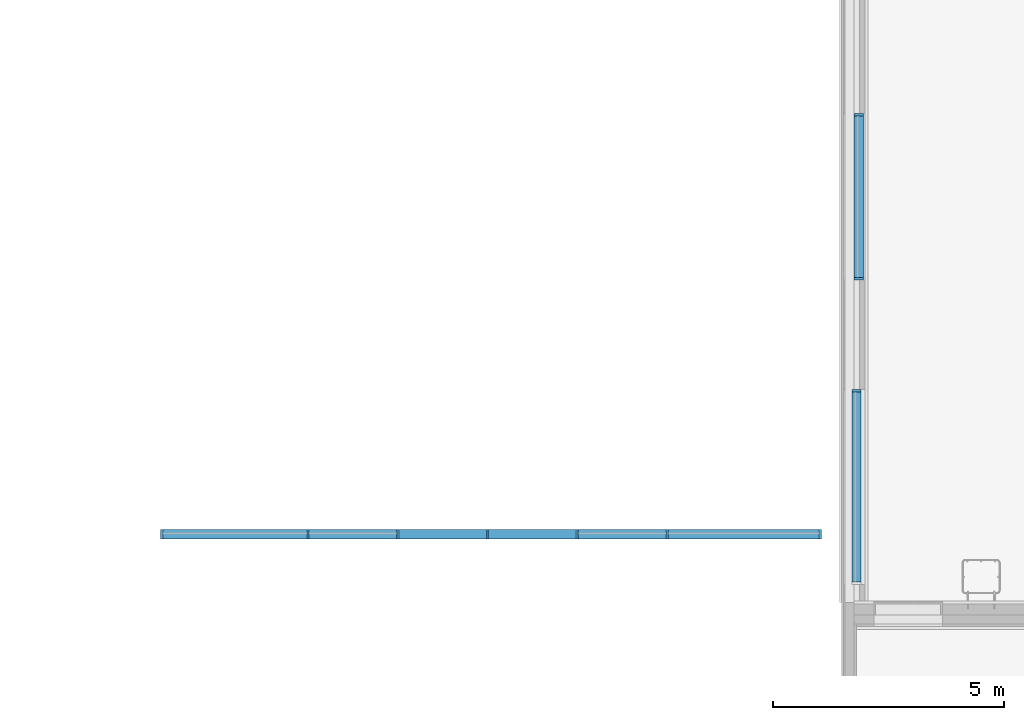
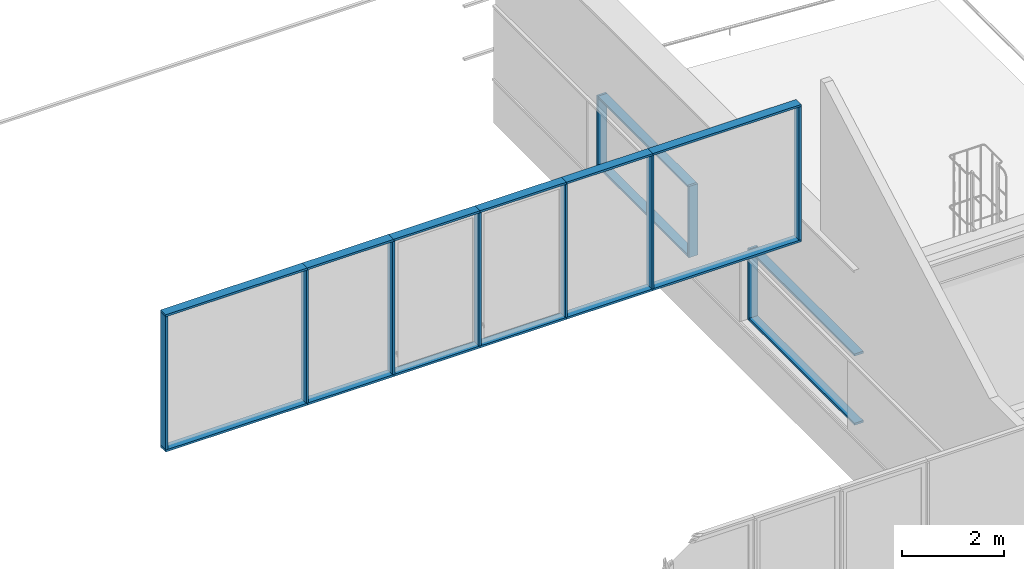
# One storey, part 11 of 44: 26 members, 3 elements without a shape of their own.
"""IFC2X3 building model written with IfcOpenShell, lengths in centimetres."""

from ifc_helpers import new_model, entity, si_unit, converted_unit, derived_unit, direction, frame, frame_2d, origin, origin_2d_with_axis, place, context, subcontext, project, spatial, rectangle, extrude, material, type_object, element, aggregate, save


model = new_model("IFC2X3")

# Units and contexts
model_context = context("Model", 3, precision=0.001, world=origin(), true_north=direction((6.12303176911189e-17, 1.0)))
body_context = subcontext(model_context, "Body", "Model", "MODEL_VIEW")
ifc_project = project(units=[si_unit("LENGTHUNIT", "METRE", prefix="CENTI"), si_unit("AREAUNIT", "SQUARE_METRE"), si_unit("VOLUMEUNIT", "CUBIC_METRE"), converted_unit("PLANEANGLEUNIT", "DEGREE", entity("IfcRatioMeasure", 0.0174532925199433), si_unit("PLANEANGLEUNIT", "RADIAN"), dimensions=[0, 0, 0, 0, 0, 0, 0]), si_unit("MASSUNIT", "GRAM", prefix="KILO"), si_unit("TIMEUNIT", "SECOND"), si_unit("FREQUENCYUNIT", "HERTZ"), si_unit("THERMODYNAMICTEMPERATUREUNIT", "DEGREE_CELSIUS"), derived_unit("THERMALTRANSMITTANCEUNIT", [(si_unit("MASSUNIT", "GRAM", prefix="KILO"), 1), (si_unit("THERMODYNAMICTEMPERATUREUNIT", "KELVIN"), -1), (si_unit("TIMEUNIT", "SECOND"), -3)]), derived_unit("VOLUMETRICFLOWRATEUNIT", [(si_unit("LENGTHUNIT", "METRE"), 3), (si_unit("TIMEUNIT", "SECOND"), -1)]), si_unit("ELECTRICCURRENTUNIT", "AMPERE"), si_unit("ELECTRICVOLTAGEUNIT", "VOLT"), si_unit("POWERUNIT", "WATT"), si_unit("FORCEUNIT", "NEWTON", prefix="KILO"), si_unit("ILLUMINANCEUNIT", "LUX"), si_unit("LUMINOUSFLUXUNIT", "LUMEN"), si_unit("LUMINOUSINTENSITYUNIT", "CANDELA"), derived_unit("USERDEFINED", [(si_unit("MASSUNIT", "GRAM", prefix="KILO"), -1), (si_unit("LENGTHUNIT", "METRE"), -2), (si_unit("TIMEUNIT", "SECOND"), 3), (si_unit("LUMINOUSFLUXUNIT", "LUMEN"), 1)]), derived_unit("LINEARVELOCITYUNIT", [(si_unit("LENGTHUNIT", "METRE"), 1), (si_unit("TIMEUNIT", "SECOND"), -1)]), si_unit("PRESSUREUNIT", "PASCAL"), derived_unit("USERDEFINED", [(si_unit("LENGTHUNIT", "METRE"), -2), (si_unit("MASSUNIT", "GRAM", prefix="KILO"), 1), (si_unit("TIMEUNIT", "SECOND"), -2)])], contexts=[model_context])

# Site, building, storey
site_placement = place(None, frame((8.62739174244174, -249.285249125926, 0.0)))
site = spatial("IfcSite", under=ifc_project, at=site_placement, Name="Default", CompositionType="ELEMENT")
building_placement = place(site_placement, origin())
building = spatial("IfcBuilding", under=site, at=building_placement, CompositionType="ELEMENT")
storey_placement = place(building_placement, frame((0.0, 0.0, 343.0)))
storey = spatial("IfcBuildingStorey", under=building, at=storey_placement, Name="R+1", CompositionType="ELEMENT", Elevation=343.0)

# Curtain wall, members
curtain_wall_type = type_object("IfcCurtainWallType", Name="Mur-rideau:Simple panneau", PredefinedType="NOTDEFINED")
curtain_wall_1_placement = place(storey_placement, frame((0.0, 0.0, -343.0)))
curtain_wall_1 = element("IfcCurtainWall", 1, at=curtain_wall_1_placement, inside=storey, type_object=curtain_wall_type, Name="Mur-rideau:Simple panneau", ObjectType="Mur-rideau:Simple panneau")
ifc_material = material(Name="Plastique, blanc opaque")
member_1_placement = place(curtain_wall_1_placement, frame((0.0, 0.0, 343.0)))
member_1 = element("IfcMember", 2, at=member_1_placement, material=ifc_material, Name="Mur-rideau:Simple panneau", ObjectType="Mur-rideau:Simple panneau", context=body_context, shape_type="SweptSolid", body=[
    extrude(rectangle(XDim=19.9999999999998, YDim=4.99999999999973, at=frame_2d((-2.16715534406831e-13, 4.32986979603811e-13), x_axis=(1.0, 0.0))), frame((3063.90482779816, 7198.28019843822, 278.0), z_axis=(0.0, 0.0, -1.0), x_axis=(-1.0, 0.0, 0.0)), (0.0, 0.0, 1.0), 170.0),
])
member_2_placement = place(curtain_wall_1_placement, frame((0.0, 0.0, 343.0)))
member_2 = element("IfcMember", 3, at=member_2_placement, material=ifc_material, Name="Mur-rideau:Simple panneau", ObjectType="Mur-rideau:Simple panneau", context=body_context, shape_type="SweptSolid", body=[
    extrude(rectangle(XDim=5.00000000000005, YDim=19.9999999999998, at=frame_2d((-5.41788836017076e-14, 4.33431068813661e-13), x_axis=(1.0, 0.0))), frame((3063.90482780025, 6845.7801984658, 275.499999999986), z_axis=(0.0, 1.0, 0.0), x_axis=(0.0, 0.0, -1.0)), (0.0, 0.0, 1.0), 349.999999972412),
])
member_3_placement = place(curtain_wall_1_placement, frame((0.0, 0.0, 343.0)))
member_3 = element("IfcMember", 4, at=member_3_placement, material=ifc_material, Name="Mur-rideau:Simple panneau", ObjectType="Mur-rideau:Simple panneau", context=body_context, shape_type="SweptSolid", body=[
    extrude(rectangle(XDim=19.9999999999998, YDim=4.99999999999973, at=frame_2d((-2.16715534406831e-13, -4.33209024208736e-13), x_axis=(1.0, 0.0))), frame((3063.90482780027, 6843.2801984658, 108.0), z_axis=(0.0, 0.0, 1.0), x_axis=(-1.0, 0.0, 0.0)), (0.0, 0.0, 1.0), 170.0),
])
member_4_placement = place(curtain_wall_1_placement, frame((0.0, 0.0, 343.0)))
member_4 = element("IfcMember", 5, at=member_4_placement, material=ifc_material, Name="Mur-rideau:Simple panneau", ObjectType="Mur-rideau:Simple panneau", context=body_context, shape_type="SweptSolid", body=[
    extrude(rectangle(XDim=5.0, YDim=19.9999999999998, at=frame_2d((2.70894418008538e-14, 4.33431068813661e-13), x_axis=(1.0, 0.0))), frame((3063.90482779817, 7195.78019843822, 110.5), z_axis=(0.0, -1.0, 0.0), x_axis=(0.0, 0.0, -1.0)), (0.0, 0.0, 1.0), 349.999999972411),
])
aggregate(curtain_wall_1, [member_1, member_2, member_3, member_4])

curtain_wall_2_placement = place(storey_placement, frame((0.0, 0.0, -343.0)))
curtain_wall_2 = element("IfcCurtainWall", 6, at=curtain_wall_2_placement, inside=storey, type_object=curtain_wall_type, Name="Mur-rideau:Simple panneau", ObjectType="Mur-rideau:Simple panneau")
member_5_placement = place(curtain_wall_2_placement, frame((0.0, 0.0, 343.0)))
member_5 = element("IfcMember", 7, at=member_5_placement, material=ifc_material, Name="Mur-rideau:Simple panneau", ObjectType="Mur-rideau:Simple panneau", context=body_context, shape_type="SweptSolid", body=[
    extrude(rectangle(XDim=19.9999999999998, YDim=4.99999999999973, at=frame_2d((2.16715534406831e-13, -4.32986979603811e-13), x_axis=(1.0, 0.0))), frame((3058.90482779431, 6600.48020813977, 278.0), z_axis=(0.0, 0.0, -1.0), x_axis=(-1.0, 0.0, 0.0)), (0.0, 0.0, 1.0), 170.0),
])
member_6_placement = place(curtain_wall_2_placement, frame((0.0, 0.0, 343.0)))
member_6 = element("IfcMember", 8, at=member_6_placement, material=ifc_material, Name="Mur-rideau:Simple panneau", ObjectType="Mur-rideau:Simple panneau", context=body_context, shape_type="SweptSolid", body=[
    extrude(rectangle(XDim=4.99999999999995, YDim=19.9999999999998, at=origin_2d_with_axis()), frame((3058.90482779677, 6185.7801984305, 275.499999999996), z_axis=(0.0, 1.0, 0.0), x_axis=(0.0, 0.0, -1.0)), (0.0, 0.0, 1.0), 412.200009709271),
])
member_7_placement = place(curtain_wall_2_placement, frame((0.0, 0.0, 343.0)))
member_7 = element("IfcMember", 9, at=member_7_placement, material=ifc_material, Name="Mur-rideau:Simple panneau", ObjectType="Mur-rideau:Simple panneau", context=body_context, shape_type="SweptSolid", body=[
    extrude(rectangle(XDim=5.0, YDim=19.9999999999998, at=frame_2d((-2.70894418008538e-14, 0.0), x_axis=(1.0, 0.0))), frame((3058.90482779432, 6597.98020813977, 110.499999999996), z_axis=(0.0, -1.0, 0.0), x_axis=(0.0, 0.0, -1.0)), (0.0, 0.0, 1.0), 412.200009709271),
])
aggregate(curtain_wall_2, [member_5, member_6, member_7])

curtain_wall_3_placement = place(storey_placement, frame((0.0, 0.0, -343.0)))
curtain_wall_3 = element("IfcCurtainWall", 10, at=curtain_wall_3_placement, inside=storey, type_object=curtain_wall_type, Name="Mur-rideau:Simple panneau", ObjectType="Mur-rideau:Simple panneau")
member_8_placement = place(curtain_wall_3_placement, frame((0.0, 0.0, 343.0)))
member_8 = element("IfcMember", 11, at=member_8_placement, material=ifc_material, Name="Mur-rideau:Simple panneau", ObjectType="Mur-rideau:Simple panneau", context=body_context, shape_type="SweptSolid", body=[
    extrude(rectangle(XDim=4.99999999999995, YDim=20.0000000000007, at=frame_2d((1.08357767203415e-13, 0.0), x_axis=(1.0, 0.0))), frame((1553.40482780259, 6289.4720025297, 833.983987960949), z_axis=(0.0, 0.0, -1.0), x_axis=(-1.0, 0.0, 0.0)), (0.0, 0.0, 1.0), 316.983987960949),
])
member_9_placement = place(curtain_wall_3_placement, frame((0.0, 0.0, 343.0)))
member_9 = element("IfcMember", 12, at=member_9_placement, material=ifc_material, Name="Mur-rideau:Simple panneau", ObjectType="Mur-rideau:Simple panneau", context=body_context, shape_type="SweptSolid", body=[
    extrude(rectangle(XDim=4.99999999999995, YDim=20.0000000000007, at=frame_2d((1.08357767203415e-13, 0.0), x_axis=(1.0, 0.0))), frame((2982.90482780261, 6289.4720025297, 836.483987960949), z_axis=(-1.0, 0.0, 0.0), x_axis=(0.0, 0.0, -1.0)), (0.0, 0.0, 1.0), 334.280764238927),
])
member_10_placement = place(curtain_wall_3_placement, frame((0.0, 0.0, 343.0)))
member_10 = element("IfcMember", 13, at=member_10_placement, material=ifc_material, Name="Mur-rideau:Simple panneau", ObjectType="Mur-rideau:Simple panneau", context=body_context, shape_type="SweptSolid", body=[
    extrude(rectangle(XDim=5.00000000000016, YDim=20.0000000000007, at=frame_2d((2.16715534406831e-13, 0.0), x_axis=(1.0, 0.0))), frame((2980.40482780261, 6289.4720025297, 517.0), z_axis=(0.0, 0.0, 1.0), x_axis=(-1.0, 0.0, 0.0)), (0.0, 0.0, 1.0), 316.983987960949),
])
member_11_placement = place(curtain_wall_3_placement, frame((0.0, 0.0, 343.0)))
member_11 = element("IfcMember", 14, at=member_11_placement, material=ifc_material, Name="Mur-rideau:Simple panneau", ObjectType="Mur-rideau:Simple panneau", context=body_context, shape_type="SweptSolid", body=[
    extrude(rectangle(XDim=5.00000000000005, YDim=20.0000000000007, at=frame_2d((-5.41788836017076e-14, 0.0), x_axis=(1.0, 0.0))), frame((1550.90482780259, 6289.4720025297, 514.5), z_axis=(1.0, 0.0, 0.0), x_axis=(0.0, 0.0, -1.0)), (0.0, 0.0, 1.0), 319.252413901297),
])
member_12_placement = place(curtain_wall_3_placement, frame((0.0, 0.0, 343.0)))
member_12 = element("IfcMember", 15, at=member_12_placement, material=ifc_material, Name="Mur-rideau:Simple panneau", ObjectType="Mur-rideau:Simple panneau", context=body_context, shape_type="SweptSolid", body=[
    extrude(rectangle(XDim=4.99999999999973, YDim=20.0000000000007, at=frame_2d((4.33209024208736e-13, 0.0), x_axis=(1.0, 0.0))), frame((2648.62406356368, 6289.4720025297, 517.0), z_axis=(0.0, 0.0, 1.0), x_axis=(-1.0, 0.0, 0.0)), (0.0, 0.0, 1.0), 316.983987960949),
])
member_13_placement = place(curtain_wall_3_placement, frame((0.0, 0.0, 343.0)))
member_13 = element("IfcMember", 16, at=member_13_placement, material=ifc_material, Name="Mur-rideau:Simple panneau", ObjectType="Mur-rideau:Simple panneau", context=body_context, shape_type="SweptSolid", body=[
    extrude(rectangle(XDim=4.99999999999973, YDim=20.0000000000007, at=origin_2d_with_axis()), frame((2259.40724170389, 6289.4720025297, 517.0), z_axis=(0.0, 0.0, 1.0), x_axis=(-1.0, 0.0, 0.0)), (0.0, 0.0, 1.0), 316.983987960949),
])
member_14_placement = place(curtain_wall_3_placement, frame((0.0, 0.0, 343.0)))
member_14 = element("IfcMember", 17, at=member_14_placement, material=ifc_material, Name="Mur-rideau:Simple panneau", ObjectType="Mur-rideau:Simple panneau", context=body_context, shape_type="SweptSolid", body=[
    extrude(rectangle(XDim=5.00000000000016, YDim=20.0000000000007, at=frame_2d((-2.16715534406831e-13, 0.0), x_axis=(1.0, 0.0))), frame((1870.15724170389, 6289.4720025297, 517.0), z_axis=(0.0, 0.0, 1.0), x_axis=(-1.0, 0.0, 0.0)), (0.0, 0.0, 1.0), 316.983987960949),
])
member_15_placement = place(curtain_wall_3_placement, frame((0.0, 0.0, 343.0)))
member_15 = element("IfcMember", 18, at=member_15_placement, material=ifc_material, Name="Mur-rideau:Simple panneau", ObjectType="Mur-rideau:Simple panneau", context=body_context, shape_type="SweptSolid", body=[
    extrude(rectangle(XDim=5.00000000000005, YDim=20.0000000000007, at=frame_2d((-5.41788836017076e-14, 0.0), x_axis=(1.0, 0.0))), frame((2648.62406356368, 6289.4720025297, 514.5), z_axis=(1.0, 0.0, 0.0), x_axis=(0.0, 0.0, -1.0)), (0.0, 0.0, 1.0), 334.280764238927),
])
member_16_placement = place(curtain_wall_3_placement, frame((0.0, 0.0, 343.0)))
member_16 = element("IfcMember", 19, at=member_16_placement, material=ifc_material, Name="Mur-rideau:Simple panneau", ObjectType="Mur-rideau:Simple panneau", context=body_context, shape_type="SweptSolid", body=[
    extrude(rectangle(XDim=5.00000000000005, YDim=20.0000000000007, at=frame_2d((-5.41788836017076e-14, 0.0), x_axis=(1.0, 0.0))), frame((2259.40724170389, 6289.4720025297, 514.5), z_axis=(1.0, 0.0, 0.0), x_axis=(0.0, 0.0, -1.0)), (0.0, 0.0, 1.0), 194.608410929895),
])
member_17_placement = place(curtain_wall_3_placement, frame((0.0, 0.0, 343.0)))
member_17 = element("IfcMember", 20, at=member_17_placement, material=ifc_material, Name="Mur-rideau:Simple panneau", ObjectType="Mur-rideau:Simple panneau", context=body_context, shape_type="SweptSolid", body=[
    extrude(rectangle(XDim=5.00000000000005, YDim=20.0000000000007, at=frame_2d((-5.41788836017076e-14, 0.0), x_axis=(1.0, 0.0))), frame((1870.15724170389, 6289.4720025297, 514.5), z_axis=(1.0, 0.0, 0.0), x_axis=(0.0, 0.0, -1.0)), (0.0, 0.0, 1.0), 194.625000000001),
])
member_18_placement = place(curtain_wall_3_placement, frame((0.0, 0.0, 343.0)))
member_18 = element("IfcMember", 21, at=member_18_placement, material=ifc_material, Name="Mur-rideau:Simple panneau", ObjectType="Mur-rideau:Simple panneau", context=body_context, shape_type="SweptSolid", body=[
    extrude(rectangle(XDim=4.99999999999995, YDim=20.0000000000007, at=frame_2d((1.08357767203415e-13, 0.0), x_axis=(1.0, 0.0))), frame((2648.62406356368, 6289.4720025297, 836.483987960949), z_axis=(-1.0, 0.0, 0.0), x_axis=(0.0, 0.0, -1.0)), (0.0, 0.0, 1.0), 194.608410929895),
])
member_19_placement = place(curtain_wall_3_placement, frame((0.0, 0.0, 343.0)))
member_19 = element("IfcMember", 22, at=member_19_placement, material=ifc_material, Name="Mur-rideau:Simple panneau", ObjectType="Mur-rideau:Simple panneau", context=body_context, shape_type="SweptSolid", body=[
    extrude(rectangle(XDim=4.99999999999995, YDim=20.0000000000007, at=frame_2d((1.08357767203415e-13, 0.0), x_axis=(1.0, 0.0))), frame((2259.40724170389, 6289.4720025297, 836.483987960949), z_axis=(-1.0, 0.0, 0.0), x_axis=(0.0, 0.0, -1.0)), (0.0, 0.0, 1.0), 194.625000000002),
])
member_20_placement = place(curtain_wall_3_placement, frame((0.0, 0.0, 343.0)))
member_20 = element("IfcMember", 23, at=member_20_placement, material=ifc_material, Name="Mur-rideau:Simple panneau", ObjectType="Mur-rideau:Simple panneau", context=body_context, shape_type="SweptSolid", body=[
    extrude(rectangle(XDim=4.99999999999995, YDim=20.0000000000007, at=frame_2d((1.08357767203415e-13, 0.0), x_axis=(1.0, 0.0))), frame((1870.15724170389, 6289.4720025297, 836.483987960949), z_axis=(-1.0, 0.0, 0.0), x_axis=(0.0, 0.0, -1.0)), (0.0, 0.0, 1.0), 319.252413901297),
])
member_21_placement = place(curtain_wall_3_placement, frame((0.0, 0.0, 343.0)))
member_21 = element("IfcMember", 24, at=member_21_placement, material=ifc_material, Name="Mur-rideau:Simple panneau", ObjectType="Mur-rideau:Simple panneau", context=body_context, shape_type="SweptSolid", body=[
    extrude(rectangle(XDim=5.00000000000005, YDim=20.0000000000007, at=frame_2d((-5.41788836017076e-14, 0.0), x_axis=(1.0, 0.0))), frame((2454.01565263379, 6289.4720025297, 514.5), z_axis=(1.0, 0.0, 0.0), x_axis=(0.0, 0.0, -1.0)), (0.0, 0.0, 1.0), 194.608410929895),
])
member_22_placement = place(curtain_wall_3_placement, frame((0.0, 0.0, 343.0)))
member_22 = element("IfcMember", 25, at=member_22_placement, material=ifc_material, Name="Mur-rideau:Simple panneau", ObjectType="Mur-rideau:Simple panneau", context=body_context, shape_type="SweptSolid", body=[
    extrude(rectangle(XDim=4.99999999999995, YDim=20.0000000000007, at=frame_2d((1.08357767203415e-13, 0.0), x_axis=(1.0, 0.0))), frame((2454.01565263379, 6289.4720025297, 836.483987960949), z_axis=(-1.0, 0.0, 0.0), x_axis=(0.0, 0.0, -1.0)), (0.0, 0.0, 1.0), 194.608410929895),
])
member_23_placement = place(curtain_wall_3_placement, frame((0.0, 0.0, 343.0)))
member_23 = element("IfcMember", 26, at=member_23_placement, material=ifc_material, Name="Mur-rideau:Simple panneau", ObjectType="Mur-rideau:Simple panneau", context=body_context, shape_type="SweptSolid", body=[
    extrude(rectangle(XDim=5.00000000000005, YDim=20.0000000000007, at=frame_2d((-5.41788836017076e-14, 0.0), x_axis=(1.0, 0.0))), frame((2064.78224170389, 6289.4720025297, 514.5), z_axis=(1.0, 0.0, 0.0), x_axis=(0.0, 0.0, -1.0)), (0.0, 0.0, 1.0), 194.625000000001),
])
member_24_placement = place(curtain_wall_3_placement, frame((0.0, 0.0, 343.0)))
member_24 = element("IfcMember", 27, at=member_24_placement, material=ifc_material, Name="Mur-rideau:Simple panneau", ObjectType="Mur-rideau:Simple panneau", context=body_context, shape_type="SweptSolid", body=[
    extrude(rectangle(XDim=4.99999999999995, YDim=20.0000000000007, at=frame_2d((1.08357767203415e-13, 0.0), x_axis=(1.0, 0.0))), frame((2064.78224170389, 6289.4720025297, 836.483987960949), z_axis=(-1.0, 0.0, 0.0), x_axis=(0.0, 0.0, -1.0)), (0.0, 0.0, 1.0), 194.625000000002),
])
member_25_placement = place(curtain_wall_3_placement, frame((0.0, 0.0, 343.0)))
member_25 = element("IfcMember", 28, at=member_25_placement, material=ifc_material, Name="Mur-rideau:Simple panneau", ObjectType="Mur-rideau:Simple panneau", context=body_context, shape_type="SweptSolid", body=[
    extrude(rectangle(XDim=4.99999999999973, YDim=20.0000000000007, at=origin_2d_with_axis()), frame((2454.01565263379, 6289.4720025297, 517.0), z_axis=(0.0, 0.0, 1.0), x_axis=(-1.0, 0.0, 0.0)), (0.0, 0.0, 1.0), 316.983987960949),
])
member_26_placement = place(curtain_wall_3_placement, frame((0.0, 0.0, 343.0)))
member_26 = element("IfcMember", 29, at=member_26_placement, material=ifc_material, Name="Mur-rideau:Simple panneau", ObjectType="Mur-rideau:Simple panneau", context=body_context, shape_type="SweptSolid", body=[
    extrude(rectangle(XDim=4.99999999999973, YDim=20.0000000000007, at=origin_2d_with_axis()), frame((2064.78224170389, 6289.4720025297, 517.0), z_axis=(0.0, 0.0, 1.0), x_axis=(-1.0, 0.0, 0.0)), (0.0, 0.0, 1.0), 316.983987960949),
])
aggregate(curtain_wall_3, [member_8, member_9, member_10, member_11, member_12, member_13, member_14, member_15, member_16, member_17, member_18, member_19, member_20, member_21, member_22, member_23, member_24, member_25, member_26])

save(model, "model.ifc")
